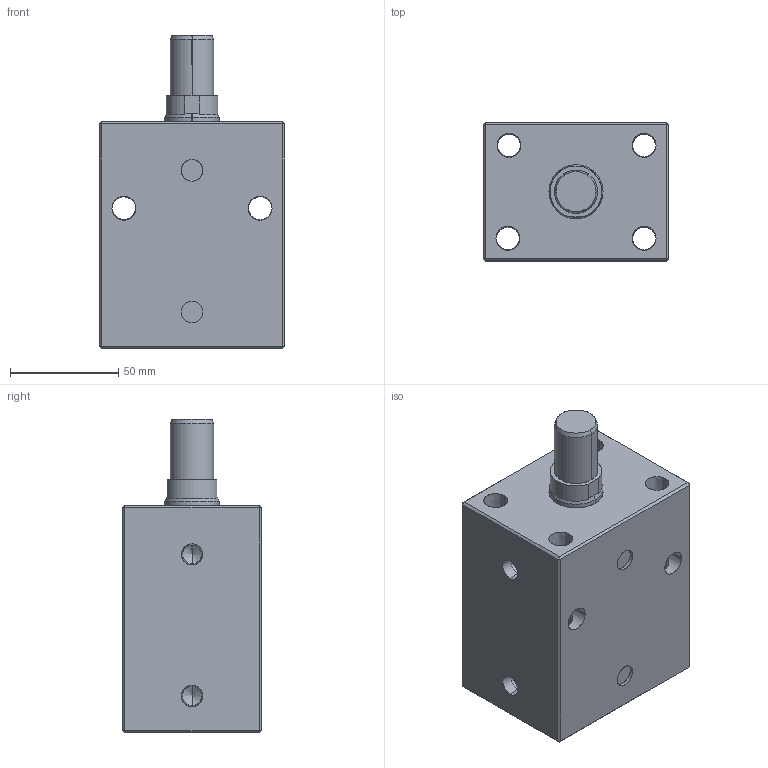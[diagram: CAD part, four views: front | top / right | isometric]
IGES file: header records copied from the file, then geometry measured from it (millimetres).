
Start section: SolidWorks IGES file using analytic representation for surfaces
Global section: file name: E:\ALL-SSVT-BLOCK\40-BORE-IGS-MODEL\BC04-40-50-M.IGS; native system: SolidWorks 2019; preprocessor: SolidWorks 2019; author: SSVT; date: 210825.145154; units: millimetre
Bounding box: 86 x 64 x 145 mm (x, y, z)
Surface area: 76892.8 mm2 (no closed solid volume)
Topology: 0 solids, 0 shells, 88 faces, 1684 edges, 1680 vertices
Faces by surface type: revolution 52, bspline 36
